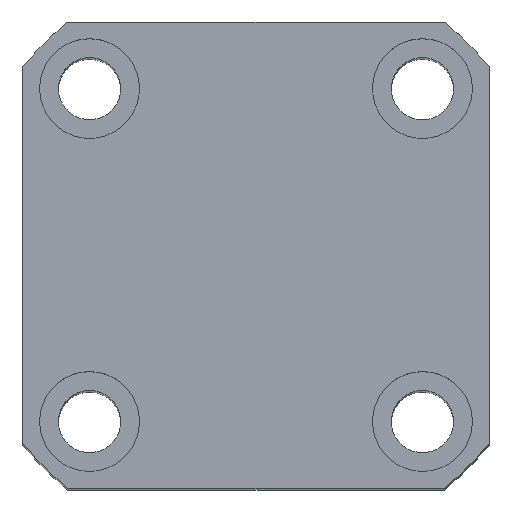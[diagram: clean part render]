
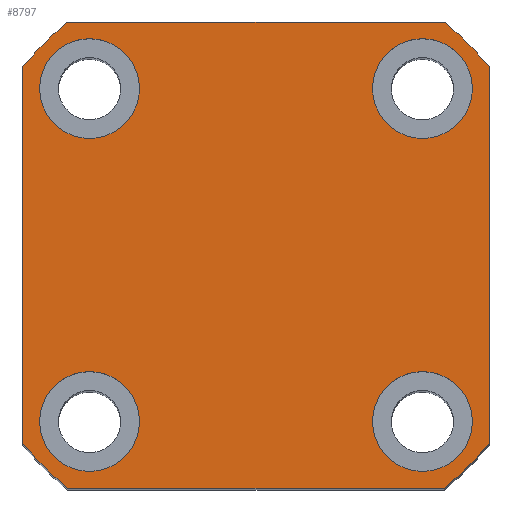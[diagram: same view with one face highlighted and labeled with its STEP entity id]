
A CAD part, top view. The second image highlights one B-rep face of the part: STEP entity #8797.
In plain terms, the highlighted planar face has unit normal (0, 0, 1).
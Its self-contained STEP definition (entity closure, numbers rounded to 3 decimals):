
#94 = EDGE_CURVE ( 'NONE', #8681, #9696, #1560, .T. ) ;
#205 = CARTESIAN_POINT ( 'NONE',  ( -21., 16.971, 98. ) ) ;
#209 = DIRECTION ( 'NONE',  ( 0., 0., 1. ) ) ;
#226 = AXIS2_PLACEMENT_3D ( 'NONE', #9457, #2992, #10523 ) ;
#292 = CARTESIAN_POINT ( 'NONE',  ( 21., 21., 98. ) ) ;
#483 = CARTESIAN_POINT ( 'NONE',  ( 19.5, 15., 98. ) ) ;
#578 = VECTOR ( 'NONE', #12436, 1000. ) ;
#799 = CARTESIAN_POINT ( 'NONE',  ( -19.5, -14.998, 98. ) ) ;
#960 = ORIENTED_EDGE ( 'NONE', *, *, #1664, .T. ) ;
#984 = EDGE_CURVE ( 'NONE', #1941, #8713, #12166, .T. ) ;
#1117 = ORIENTED_EDGE ( 'NONE', *, *, #3421, .T. ) ;
#1138 = DIRECTION ( 'NONE',  ( 0., 0., 1. ) ) ;
#1281 = VERTEX_POINT ( 'NONE', #7273 ) ;
#1340 = DIRECTION ( 'NONE',  ( 0., 1., 0. ) ) ;
#1370 = DIRECTION ( 'NONE',  ( 0., 0., 1. ) ) ;
#1437 = AXIS2_PLACEMENT_3D ( 'NONE', #2941, #10474, #4011 ) ;
#1442 = VERTEX_POINT ( 'NONE', #8277 ) ;
#1519 = CARTESIAN_POINT ( 'NONE',  ( 0., 0., 98. ) ) ;
#1560 = CIRCLE ( 'NONE', #9348, 4.5 ) ;
#1590 = CARTESIAN_POINT ( 'NONE',  ( 15., -14.998, 98. ) ) ;
#1664 = EDGE_CURVE ( 'NONE', #3577, #6875, #11981, .T. ) ;
#1671 = EDGE_CURVE ( 'NONE', #3608, #1281, #3707, .T. ) ;
#1766 = CARTESIAN_POINT ( 'NONE',  ( -15., -14.998, 98. ) ) ;
#1881 = PLANE ( 'NONE',  #226 ) ;
#1941 = VERTEX_POINT ( 'NONE', #799 ) ;
#2569 = DIRECTION ( 'NONE',  ( 1., 0., 0. ) ) ;
#2592 = AXIS2_PLACEMENT_3D ( 'NONE', #1519, #9046, #2569 ) ;
#2655 = DIRECTION ( 'NONE',  ( 1., 0., 0. ) ) ;
#2735 = FACE_BOUND ( 'NONE', #11672, .T. ) ;
#2756 = CARTESIAN_POINT ( 'NONE',  ( 10.5, 15., 98. ) ) ;
#2760 = CIRCLE ( 'NONE', #2979, 4.5 ) ;
#2826 = DIRECTION ( 'NONE',  ( 1., 0., 0. ) ) ;
#2888 = DIRECTION ( 'NONE',  ( 0., 0., 1. ) ) ;
#2941 = CARTESIAN_POINT ( 'NONE',  ( 0., 0., 98. ) ) ;
#2979 = AXIS2_PLACEMENT_3D ( 'NONE', #7759, #1370, #8904 ) ;
#2992 = DIRECTION ( 'NONE',  ( 0., 0., 1. ) ) ;
#3058 = CIRCLE ( 'NONE', #4899, 27. ) ;
#3065 = DIRECTION ( 'NONE',  ( 0., -1., 0. ) ) ;
#3112 = ORIENTED_EDGE ( 'NONE', *, *, #8967, .F. ) ;
#3172 = EDGE_CURVE ( 'NONE', #9193, #3577, #6282, .T. ) ;
#3208 = VECTOR ( 'NONE', #12781, 1000. ) ;
#3269 = CARTESIAN_POINT ( 'NONE',  ( 16.971, 21., 98. ) ) ;
#3421 = EDGE_CURVE ( 'NONE', #1281, #10554, #5610, .T. ) ;
#3535 = EDGE_CURVE ( 'NONE', #10854, #1442, #10434, .T. ) ;
#3577 = VERTEX_POINT ( 'NONE', #3269 ) ;
#3608 = VERTEX_POINT ( 'NONE', #8717 ) ;
#3707 = LINE ( 'NONE', #12638, #578 ) ;
#3781 = ORIENTED_EDGE ( 'NONE', *, *, #3535, .F. ) ;
#3962 = ORIENTED_EDGE ( 'NONE', *, *, #984, .F. ) ;
#4011 = DIRECTION ( 'NONE',  ( 1., 0., 0. ) ) ;
#4074 = FACE_BOUND ( 'NONE', #12283, .T. ) ;
#4149 = AXIS2_PLACEMENT_3D ( 'NONE', #1590, #9121, #2655 ) ;
#4224 = CIRCLE ( 'NONE', #6768, 4.5 ) ;
#4324 = EDGE_CURVE ( 'NONE', #8713, #1941, #13607, .T. ) ;
#4329 = CARTESIAN_POINT ( 'NONE',  ( 15., -14.998, 98. ) ) ;
#4395 = CIRCLE ( 'NONE', #2592, 27. ) ;
#4464 = DIRECTION ( 'NONE',  ( 0., 0., 1. ) ) ;
#4878 = CARTESIAN_POINT ( 'NONE',  ( 21., 16.971, 98. ) ) ;
#4899 = AXIS2_PLACEMENT_3D ( 'NONE', #9361, #2888, #10428 ) ;
#4929 = EDGE_CURVE ( 'NONE', #6090, #9897, #11757, .T. ) ;
#5088 = LINE ( 'NONE', #9552, #10890 ) ;
#5306 = CARTESIAN_POINT ( 'NONE',  ( 10.5, -14.998, 98. ) ) ;
#5319 = DIRECTION ( 'NONE',  ( 1., 0., 0. ) ) ;
#5339 = DIRECTION ( 'NONE',  ( 0., 0., 1. ) ) ;
#5350 = CARTESIAN_POINT ( 'NONE',  ( -15., -14.998, 98. ) ) ;
#5351 = DIRECTION ( 'NONE',  ( 1., 0., 0. ) ) ;
#5504 = FACE_BOUND ( 'NONE', #9636, .T. ) ;
#5505 = VERTEX_POINT ( 'NONE', #7218 ) ;
#5610 = CIRCLE ( 'NONE', #10080, 27. ) ;
#6059 = ORIENTED_EDGE ( 'NONE', *, *, #12567, .F. ) ;
#6090 = VERTEX_POINT ( 'NONE', #9650 ) ;
#6282 = CIRCLE ( 'NONE', #1437, 27. ) ;
#6324 = EDGE_CURVE ( 'NONE', #10351, #5505, #5088, .T. ) ;
#6381 = ORIENTED_EDGE ( 'NONE', *, *, #11947, .T. ) ;
#6494 = CARTESIAN_POINT ( 'NONE',  ( -15., 15.002, 98. ) ) ;
#6768 = AXIS2_PLACEMENT_3D ( 'NONE', #10935, #4464, #12042 ) ;
#6875 = VERTEX_POINT ( 'NONE', #13770 ) ;
#7059 = CARTESIAN_POINT ( 'NONE',  ( 15., 15., 98. ) ) ;
#7079 = DIRECTION ( 'NONE',  ( 0., 0., 1. ) ) ;
#7113 = DIRECTION ( 'NONE',  ( 1., 0., 0. ) ) ;
#7180 = EDGE_CURVE ( 'NONE', #9897, #6090, #2760, .T. ) ;
#7218 = CARTESIAN_POINT ( 'NONE',  ( -21., -16.971, 98. ) ) ;
#7273 = CARTESIAN_POINT ( 'NONE',  ( 16.971, -21., 98. ) ) ;
#7512 = CARTESIAN_POINT ( 'NONE',  ( 0., 0., 98. ) ) ;
#7642 = DIRECTION ( 'NONE',  ( 1., 0., 0. ) ) ;
#7727 = CIRCLE ( 'NONE', #4149, 4.5 ) ;
#7759 = CARTESIAN_POINT ( 'NONE',  ( -15., 15.002, 98. ) ) ;
#7779 = ORIENTED_EDGE ( 'NONE', *, *, #8512, .T. ) ;
#8206 = EDGE_LOOP ( 'NONE', ( #12571, #3962 ) ) ;
#8258 = CARTESIAN_POINT ( 'NONE',  ( -10.5, -14.998, 98. ) ) ;
#8277 = CARTESIAN_POINT ( 'NONE',  ( 19.5, -14.998, 98. ) ) ;
#8335 = ORIENTED_EDGE ( 'NONE', *, *, #3172, .T. ) ;
#8468 = FACE_OUTER_BOUND ( 'NONE', #11593, .T. ) ;
#8512 = EDGE_CURVE ( 'NONE', #5505, #3608, #4395, .T. ) ;
#8655 = DIRECTION ( 'NONE',  ( 1., 0., 0. ) ) ;
#8681 = VERTEX_POINT ( 'NONE', #2756 ) ;
#8713 = VERTEX_POINT ( 'NONE', #8258 ) ;
#8717 = CARTESIAN_POINT ( 'NONE',  ( -16.971, -21., 98. ) ) ;
#8797 = ADVANCED_FACE ( 'NONE', ( #2735, #13845, #4074, #5504, #8468 ), #1881, .T. ) ;
#8904 = DIRECTION ( 'NONE',  ( 1., 0., 0. ) ) ;
#8967 = EDGE_CURVE ( 'NONE', #9696, #8681, #4224, .T. ) ;
#9046 = DIRECTION ( 'NONE',  ( 0., 0., 1. ) ) ;
#9116 = CARTESIAN_POINT ( 'NONE',  ( -10.5, 15.002, 98. ) ) ;
#9121 = DIRECTION ( 'NONE',  ( 0., 0., 1. ) ) ;
#9174 = ORIENTED_EDGE ( 'NONE', *, *, #4929, .F. ) ;
#9193 = VERTEX_POINT ( 'NONE', #4878 ) ;
#9278 = AXIS2_PLACEMENT_3D ( 'NONE', #1766, #9291, #2826 ) ;
#9291 = DIRECTION ( 'NONE',  ( 0., 0., 1. ) ) ;
#9305 = VECTOR ( 'NONE', #1340, 1000. ) ;
#9348 = AXIS2_PLACEMENT_3D ( 'NONE', #7059, #7079, #7113 ) ;
#9361 = CARTESIAN_POINT ( 'NONE',  ( 0., 0., 98. ) ) ;
#9457 = CARTESIAN_POINT ( 'NONE',  ( 0., 0., 98. ) ) ;
#9506 = ORIENTED_EDGE ( 'NONE', *, *, #7180, .F. ) ;
#9552 = CARTESIAN_POINT ( 'NONE',  ( -21., 21., 98. ) ) ;
#9636 = EDGE_LOOP ( 'NONE', ( #3112, #10361 ) ) ;
#9650 = CARTESIAN_POINT ( 'NONE',  ( -19.5, 15.002, 98. ) ) ;
#9696 = VERTEX_POINT ( 'NONE', #483 ) ;
#9897 = VERTEX_POINT ( 'NONE', #9116 ) ;
#10014 = ORIENTED_EDGE ( 'NONE', *, *, #1671, .T. ) ;
#10080 = AXIS2_PLACEMENT_3D ( 'NONE', #7512, #1138, #8655 ) ;
#10113 = CARTESIAN_POINT ( 'NONE',  ( 21., -16.971, 98. ) ) ;
#10351 = VERTEX_POINT ( 'NONE', #205 ) ;
#10361 = ORIENTED_EDGE ( 'NONE', *, *, #94, .F. ) ;
#10428 = DIRECTION ( 'NONE',  ( 1., 0., 0. ) ) ;
#10434 = CIRCLE ( 'NONE', #12265, 4.5 ) ;
#10474 = DIRECTION ( 'NONE',  ( 0., 0., 1. ) ) ;
#10523 = DIRECTION ( 'NONE',  ( 1., 0., 0. ) ) ;
#10554 = VERTEX_POINT ( 'NONE', #10113 ) ;
#10854 = VERTEX_POINT ( 'NONE', #5306 ) ;
#10890 = VECTOR ( 'NONE', #3065, 1000. ) ;
#10935 = CARTESIAN_POINT ( 'NONE',  ( 15., 15., 98. ) ) ;
#11017 = ORIENTED_EDGE ( 'NONE', *, *, #6324, .T. ) ;
#11389 = EDGE_CURVE ( 'NONE', #6875, #10351, #3058, .T. ) ;
#11593 = EDGE_LOOP ( 'NONE', ( #6381, #8335, #960, #11699, #11017, #7779, #10014, #1117 ) ) ;
#11672 = EDGE_LOOP ( 'NONE', ( #9506, #9174 ) ) ;
#11686 = AXIS2_PLACEMENT_3D ( 'NONE', #5350, #5339, #5319 ) ;
#11699 = ORIENTED_EDGE ( 'NONE', *, *, #11389, .T. ) ;
#11757 = CIRCLE ( 'NONE', #13768, 4.5 ) ;
#11824 = LINE ( 'NONE', #292, #9305 ) ;
#11909 = DIRECTION ( 'NONE',  ( 0., 0., 1. ) ) ;
#11947 = EDGE_CURVE ( 'NONE', #10554, #9193, #11824, .T. ) ;
#11981 = LINE ( 'NONE', #12750, #3208 ) ;
#12042 = DIRECTION ( 'NONE',  ( 1., 0., 0. ) ) ;
#12166 = CIRCLE ( 'NONE', #11686, 4.5 ) ;
#12265 = AXIS2_PLACEMENT_3D ( 'NONE', #4329, #11909, #5351 ) ;
#12283 = EDGE_LOOP ( 'NONE', ( #6059, #3781 ) ) ;
#12436 = DIRECTION ( 'NONE',  ( 1., 0., 0. ) ) ;
#12567 = EDGE_CURVE ( 'NONE', #1442, #10854, #7727, .T. ) ;
#12571 = ORIENTED_EDGE ( 'NONE', *, *, #4324, .F. ) ;
#12638 = CARTESIAN_POINT ( 'NONE',  ( -21., -21., 98. ) ) ;
#12750 = CARTESIAN_POINT ( 'NONE',  ( -21., 21., 98. ) ) ;
#12781 = DIRECTION ( 'NONE',  ( -1., 0., 0. ) ) ;
#13607 = CIRCLE ( 'NONE', #9278, 4.5 ) ;
#13768 = AXIS2_PLACEMENT_3D ( 'NONE', #6494, #209, #7642 ) ;
#13770 = CARTESIAN_POINT ( 'NONE',  ( -16.971, 21., 98. ) ) ;
#13845 = FACE_BOUND ( 'NONE', #8206, .T. ) ;
